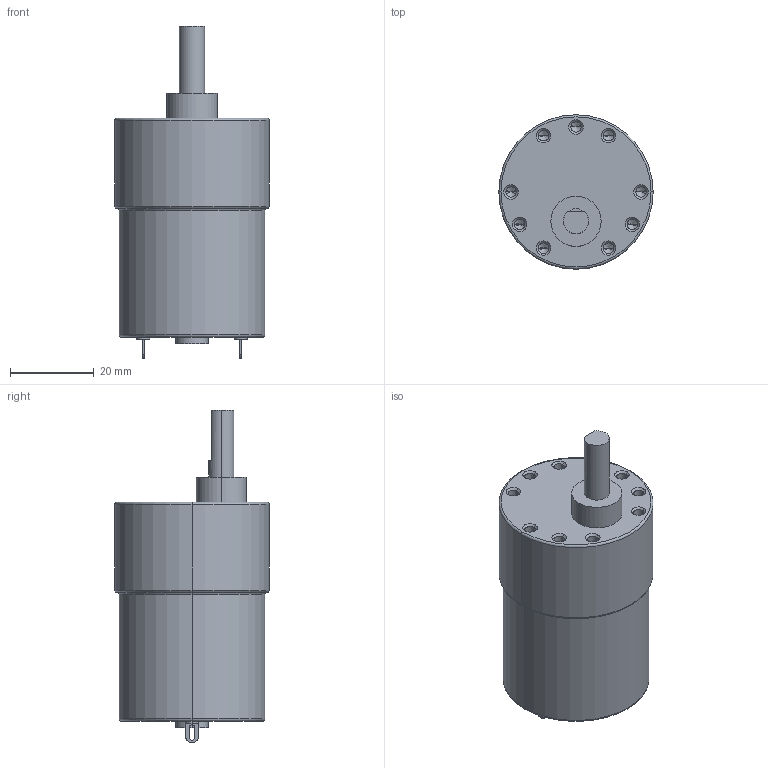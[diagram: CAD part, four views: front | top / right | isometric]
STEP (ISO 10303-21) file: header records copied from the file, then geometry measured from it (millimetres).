
FILE_DESCRIPTION (( 'STEP AP203' ), '1' );
FILE_NAME ('pololu motors.STEP', '2025-10-13T11:03:52', ( '' ), ( '' ), 'SwSTEP 2.0', 'SolidWorks 2023', '' );
FILE_SCHEMA (( 'CONFIG_CONTROL_DESIGN' ));
Length unit declared in the file: millimetre
Products named in the file (1): pololu motors
Bounding box: 36.8 x 36.8 x 79.2 mm (x, y, z)
Volume: 53053.8 mm3; surface area: 8787.5 mm2
Topology: 1 solids, 1 shells, 109 faces, 254 edges, 145 vertices
Faces by surface type: cylinder 38, cone 36, plane 23, torus 8, bspline 4
Entity records: 3057 total; most frequent: DIRECTION 550, CARTESIAN_POINT 527, ORIENTED_EDGE 472, EDGE_CURVE 236, AXIS2_PLACEMENT_3D 216, VERTEX_POINT 145, EDGE_LOOP 129, VECTOR 118
